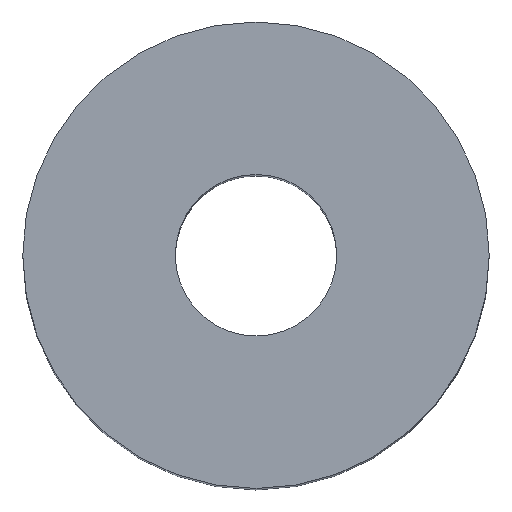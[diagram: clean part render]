
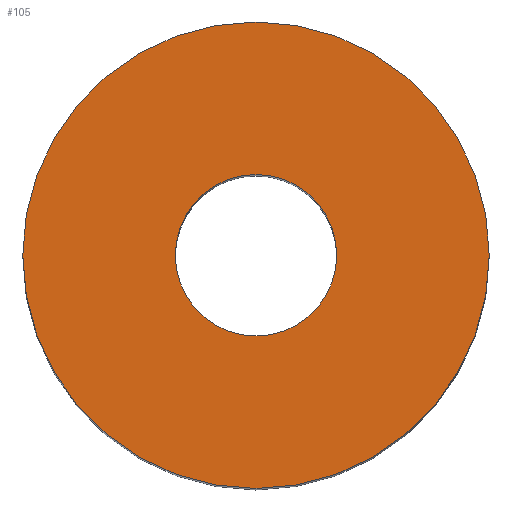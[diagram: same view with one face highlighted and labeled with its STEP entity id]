
A CAD part, top view. The second image highlights one B-rep face of the part: STEP entity #105.
In plain terms, the highlighted planar face has unit normal (0, 0, 1).
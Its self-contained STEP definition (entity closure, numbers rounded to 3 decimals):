
#21 = EDGE_CURVE('',#22,#22,#24,.T.);
#22 = VERTEX_POINT('',#23);
#23 = CARTESIAN_POINT('',(6.5,0.,24.));
#24 = SURFACE_CURVE('',#25,(#30,#42),.PCURVE_S1.);
#25 = CIRCLE('',#26,6.5);
#26 = AXIS2_PLACEMENT_3D('',#27,#28,#29);
#27 = CARTESIAN_POINT('',(0.,0.,24.));
#28 = DIRECTION('',(0.,0.,1.));
#29 = DIRECTION('',(1.,0.,-0.));
#30 = PCURVE('',#31,#36);
#31 = CYLINDRICAL_SURFACE('',#32,6.5);
#32 = AXIS2_PLACEMENT_3D('',#33,#34,#35);
#33 = CARTESIAN_POINT('',(0.,0.,0.));
#34 = DIRECTION('',(0.,0.,1.));
#35 = DIRECTION('',(1.,0.,-0.));
#36 = DEFINITIONAL_REPRESENTATION('',(#37),#41);
#37 = LINE('',#38,#39);
#38 = CARTESIAN_POINT('',(0.,24.));
#39 = VECTOR('',#40,1.);
#40 = DIRECTION('',(1.,0.));
#41 = ( GEOMETRIC_REPRESENTATION_CONTEXT(2) 
PARAMETRIC_REPRESENTATION_CONTEXT() REPRESENTATION_CONTEXT('2D SPACE',''
  ) );
#42 = PCURVE('',#43,#48);
#43 = PLANE('',#44);
#44 = AXIS2_PLACEMENT_3D('',#45,#46,#47);
#45 = CARTESIAN_POINT('',(0.,0.,24.));
#46 = DIRECTION('',(0.,0.,1.));
#47 = DIRECTION('',(1.,0.,-0.));
#48 = DEFINITIONAL_REPRESENTATION('',(#49),#53);
#49 = CIRCLE('',#50,6.5);
#50 = AXIS2_PLACEMENT_2D('',#51,#52);
#51 = CARTESIAN_POINT('',(0.,0.));
#52 = DIRECTION('',(1.,0.));
#53 = ( GEOMETRIC_REPRESENTATION_CONTEXT(2) 
PARAMETRIC_REPRESENTATION_CONTEXT() REPRESENTATION_CONTEXT('2D SPACE',''
  ) );
#105 = ADVANCED_FACE('',(#106,#109),#43,.T.);
#106 = FACE_BOUND('',#107,.T.);
#107 = EDGE_LOOP('',(#108));
#108 = ORIENTED_EDGE('',*,*,#21,.T.);
#109 = FACE_BOUND('',#110,.T.);
#110 = EDGE_LOOP('',(#111));
#111 = ORIENTED_EDGE('',*,*,#112,.F.);
#112 = EDGE_CURVE('',#113,#113,#115,.T.);
#113 = VERTEX_POINT('',#114);
#114 = CARTESIAN_POINT('',(2.25,0.,24.));
#115 = SURFACE_CURVE('',#116,(#121,#128),.PCURVE_S1.);
#116 = CIRCLE('',#117,2.25);
#117 = AXIS2_PLACEMENT_3D('',#118,#119,#120);
#118 = CARTESIAN_POINT('',(0.,0.,24.));
#119 = DIRECTION('',(0.,0.,1.));
#120 = DIRECTION('',(1.,0.,-0.));
#121 = PCURVE('',#43,#122);
#122 = DEFINITIONAL_REPRESENTATION('',(#123),#127);
#123 = CIRCLE('',#124,2.25);
#124 = AXIS2_PLACEMENT_2D('',#125,#126);
#125 = CARTESIAN_POINT('',(0.,0.));
#126 = DIRECTION('',(1.,0.));
#127 = ( GEOMETRIC_REPRESENTATION_CONTEXT(2) 
PARAMETRIC_REPRESENTATION_CONTEXT() REPRESENTATION_CONTEXT('2D SPACE',''
  ) );
#128 = PCURVE('',#129,#134);
#129 = CYLINDRICAL_SURFACE('',#130,2.25);
#130 = AXIS2_PLACEMENT_3D('',#131,#132,#133);
#131 = CARTESIAN_POINT('',(0.,0.,-1.));
#132 = DIRECTION('',(0.,0.,1.));
#133 = DIRECTION('',(1.,0.,-0.));
#134 = DEFINITIONAL_REPRESENTATION('',(#135),#139);
#135 = LINE('',#136,#137);
#136 = CARTESIAN_POINT('',(0.,25.));
#137 = VECTOR('',#138,1.);
#138 = DIRECTION('',(1.,0.));
#139 = ( GEOMETRIC_REPRESENTATION_CONTEXT(2) 
PARAMETRIC_REPRESENTATION_CONTEXT() REPRESENTATION_CONTEXT('2D SPACE',''
  ) );
